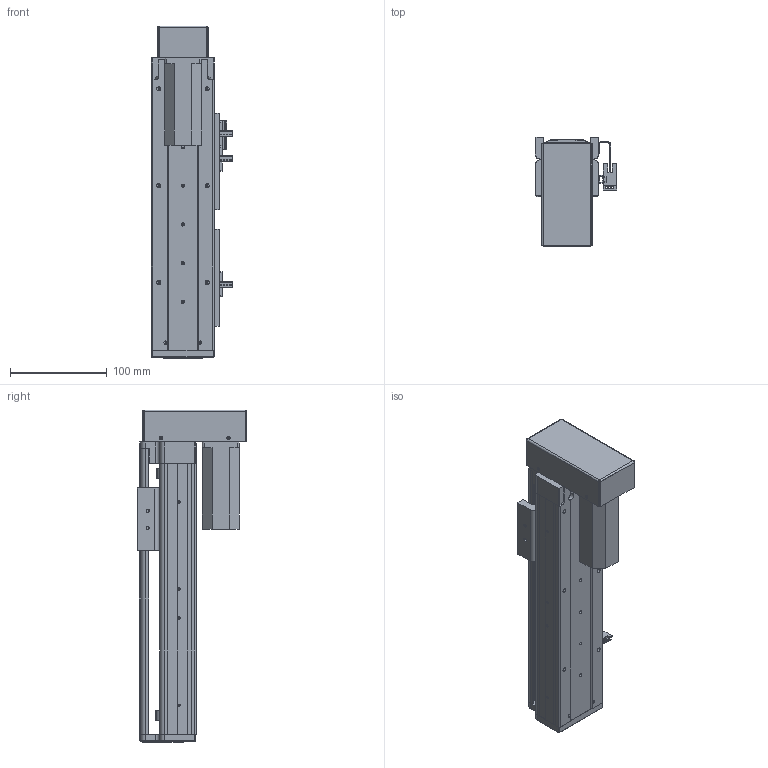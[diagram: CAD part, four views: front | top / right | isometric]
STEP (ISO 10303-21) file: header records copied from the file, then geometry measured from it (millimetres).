
FILE_DESCRIPTION (( 'STEP AP203' ), '1' );
FILE_NAME ('RY60-L1210-300-BK.SLDASM_150.step', '2021-02-20T06:42:00', ( '盈信电脑' ), ( '东莞市道滘镇水果街19号' ), 'SwSTEP 2.0', 'SolidWorks 2012', '' );
FILE_SCHEMA (( 'CONFIG_CONTROL_DESIGN' ));
Length unit declared in the file: millimetre
Products named in the file (13): RY60-L1210-300-BK.SLDASM_150; 滅袉蝶18-10; RY60狟殏萇儂欶100W; RY60狟殏萇儂假蚾啣; RY60转折电机端支撑座; 侂狟100W; 672嫖萇羲壽假蚾釱; RY60綴裔啣; 覜茼ん672; RY80俋离覜茼え; RY60臏賑輸; RY60-300倰第裔啣-BK_150; RY60-300倰第菁釱-BK_150
Assembly tree (18 placements, depth 2):
  RY60-L1210-300-BK.SLDASM_150
    RY60-300倰第菁釱-BK_150
    RY60臏賑輸
    RY60-300倰第裔啣-BK_150
    672嫖萇羲壽假蚾釱  x2
    RY60綴裔啣
    覜茼ん672  x3
    RY80俋离覜茼え
    RY60转折电机端支撑座
    RY60狟殏萇儂假蚾啣
    侂狟100W
    RY60狟殏萇儂欶100W
    滅袉蝶18-10  x4
Bounding box: 83.7 x 113.5 x 343 mm (x, y, z)
Volume: 582539.6 mm3; surface area: 278912.8 mm2
Topology: 18 solids, 18 shells, 1355 faces, 3749 edges, 2402 vertices
Faces by surface type: plane 687, cylinder 551, cone 100, bspline 17
Entity records: 39284 total; most frequent: CARTESIAN_POINT 8887, ORIENTED_EDGE 6082, DIRECTION 5947, EDGE_CURVE 3041, AXIS2_PLACEMENT_3D 2032, VERTEX_POINT 1982, VECTOR 1883, LINE 1883
